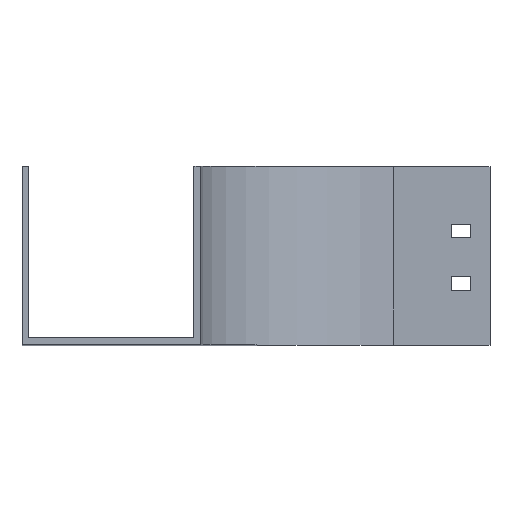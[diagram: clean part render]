
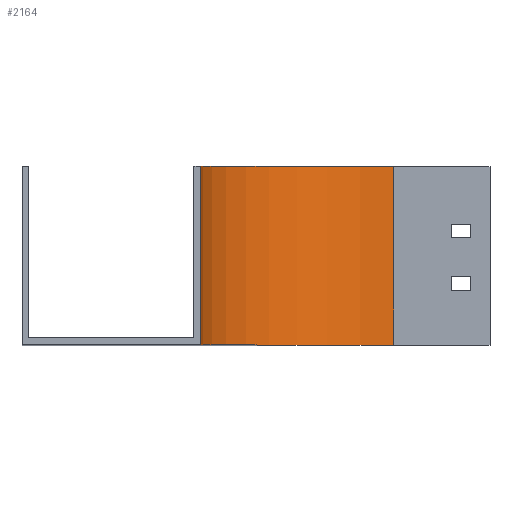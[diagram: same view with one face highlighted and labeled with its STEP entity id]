
A CAD part, top view. The second image highlights one B-rep face of the part: STEP entity #2164.
In plain terms, the highlighted cylindrical face has radius 100 mm (diameter 200 mm), a partial arc.
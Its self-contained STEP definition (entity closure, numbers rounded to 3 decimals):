
#55 = CIRCLE ( 'NONE', #870, 100. ) ;
#127 = ORIENTED_EDGE ( 'NONE', *, *, #2331, .F. ) ;
#160 = AXIS2_PLACEMENT_3D ( 'NONE', #1965, #685, #2370 ) ;
#169 = ORIENTED_EDGE ( 'NONE', *, *, #385, .T. ) ;
#222 = LINE ( 'NONE', #2301, #2030 ) ;
#238 = LINE ( 'NONE', #1925, #1126 ) ;
#266 = DIRECTION ( 'NONE',  ( 0., -1., 0. ) ) ;
#286 = CYLINDRICAL_SURFACE ( 'NONE', #1516, 100. ) ;
#385 = EDGE_CURVE ( 'NONE', #951, #1274, #222, .T. ) ;
#591 = CARTESIAN_POINT ( 'NONE',  ( -100., 92.5, 0. ) ) ;
#685 = DIRECTION ( 'NONE',  ( 0., -1., 0. ) ) ;
#746 = EDGE_CURVE ( 'NONE', #1274, #987, #2563, .T. ) ;
#870 = AXIS2_PLACEMENT_3D ( 'NONE', #1001, #1614, #1675 ) ;
#951 = VERTEX_POINT ( 'NONE', #591 ) ;
#980 = DIRECTION ( 'NONE',  ( 0., -1., 0. ) ) ;
#987 = VERTEX_POINT ( 'NONE', #2574 ) ;
#1001 = CARTESIAN_POINT ( 'NONE',  ( 0., 92.5, 0. ) ) ;
#1126 = VECTOR ( 'NONE', #266, 1000. ) ;
#1134 = ORIENTED_EDGE ( 'NONE', *, *, #746, .T. ) ;
#1138 = ORIENTED_EDGE ( 'NONE', *, *, #2543, .F. ) ;
#1274 = VERTEX_POINT ( 'NONE', #2701 ) ;
#1362 = FACE_OUTER_BOUND ( 'NONE', #2584, .T. ) ;
#1516 = AXIS2_PLACEMENT_3D ( 'NONE', #1985, #980, #2613 ) ;
#1614 = DIRECTION ( 'NONE',  ( 0., -1., 0. ) ) ;
#1675 = DIRECTION ( 'NONE',  ( 0., 0., -1. ) ) ;
#1925 = CARTESIAN_POINT ( 'NONE',  ( 0., 92.5, -100. ) ) ;
#1939 = VERTEX_POINT ( 'NONE', #2143 ) ;
#1965 = CARTESIAN_POINT ( 'NONE',  ( 0., 0., 0. ) ) ;
#1985 = CARTESIAN_POINT ( 'NONE',  ( 0., 92.5, 0. ) ) ;
#2030 = VECTOR ( 'NONE', #2742, 1000. ) ;
#2143 = CARTESIAN_POINT ( 'NONE',  ( 0., 92.5, -100. ) ) ;
#2164 = ADVANCED_FACE ( 'NONE', ( #1362 ), #286, .F. ) ;
#2301 = CARTESIAN_POINT ( 'NONE',  ( -100., 92.5, 0. ) ) ;
#2331 = EDGE_CURVE ( 'NONE', #951, #1939, #55, .T. ) ;
#2370 = DIRECTION ( 'NONE',  ( 0., 0., -1. ) ) ;
#2543 = EDGE_CURVE ( 'NONE', #1939, #987, #238, .T. ) ;
#2563 = CIRCLE ( 'NONE', #160, 100. ) ;
#2574 = CARTESIAN_POINT ( 'NONE',  ( 0., 0., -100. ) ) ;
#2584 = EDGE_LOOP ( 'NONE', ( #1134, #1138, #127, #169 ) ) ;
#2613 = DIRECTION ( 'NONE',  ( 0., 0., -1. ) ) ;
#2701 = CARTESIAN_POINT ( 'NONE',  ( -100., 0., 0. ) ) ;
#2742 = DIRECTION ( 'NONE',  ( 0., -1., 0. ) ) ;
